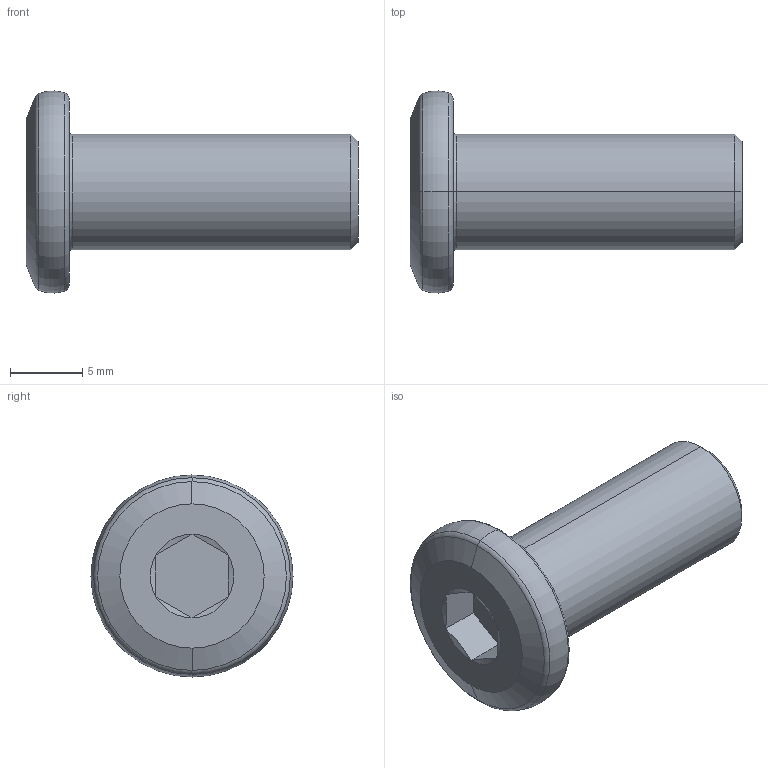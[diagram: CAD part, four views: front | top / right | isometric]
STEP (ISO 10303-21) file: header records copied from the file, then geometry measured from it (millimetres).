
FILE_DESCRIPTION (( 'STEP AP203' ), '1' );
FILE_NAME ('LGD-304D-M8x20.STEP', '2026-08-13T08:20:37', ( '' ), ( '' ), 'SwSTEP 2.0', 'SolidWorks 2020', '' );
FILE_SCHEMA (( 'CONFIG_CONTROL_DESIGN' ));
Length unit declared in the file: millimetre
Products named in the file (1): LGD-304D-M8x20
Bounding box: 23 x 14 x 14 mm (x, y, z)
Volume: 1363.8 mm3; surface area: 926.7 mm2
Topology: 1 solids, 1 shells, 30 faces, 56 edges, 30 vertices
Faces by surface type: cone 10, plane 10, torus 8, cylinder 2
Entity records: 827 total; most frequent: DIRECTION 144, CARTESIAN_POINT 143, ORIENTED_EDGE 112, AXIS2_PLACEMENT_3D 63, EDGE_CURVE 56, CIRCLE 32, EDGE_LOOP 32, FACE_OUTER_BOUND 30
